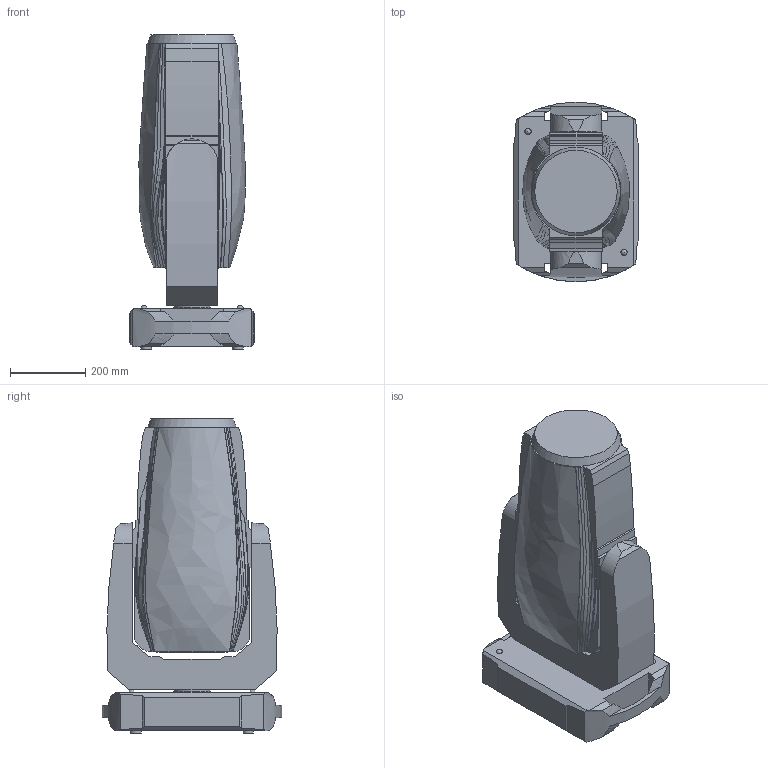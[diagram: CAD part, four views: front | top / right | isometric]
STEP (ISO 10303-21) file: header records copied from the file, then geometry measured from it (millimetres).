
FILE_DESCRIPTION(/* description */ ('Unknown'),/* implementation_level */ '2;1');
FILE_NAME(/* name */ '3D-iForte',/* time_stamp */ '2023-09-19T10:35:34+02:00',/* author */ ('Ing.Rostislav HĂˇba'),/* organization */ ('ROBE lighting'),/* preprocessor_version */ 'ST-DEVELOPER v18.104',/* originating_system */ 'Solid Edge',/* authorisation */ 'Unknown');
FILE_SCHEMA (('AUTOMOTIVE_DESIGN {1 0 10303 214 3 1 1}'));
Length unit declared in the file: millimetre
Products named in the file (4): 3D-iForte; iForte-Base; iForte-Arm; iForte-Head
Assembly tree (3 placements, depth 2):
  3D-iForte
    iForte-Base
    iForte-Arm
    iForte-Head
Bounding box: 335.42 x 478.88 x 836.79 mm (x, y, z)
Volume: 65798101.8 mm3; surface area: 1676566.2 mm2
Topology: 3 solids, 3 shells, 160 faces, 450 edges, 301 vertices
Faces by surface type: plane 78, bspline 51, cylinder 28, torus 2, cone 1
Full cylindrical faces by diameter (mm): 27.261 x2, 29.966 x2, 50 x3, 95.486 x1, 97.471 x1
Entity records: 7164 total; most frequent: CARTESIAN_POINT 3397, ORIENTED_EDGE 856, DIRECTION 579, EDGE_CURVE 428, VERTEX_POINT 293, LINE 205, VECTOR 205, AXIS2_PLACEMENT_3D 187
